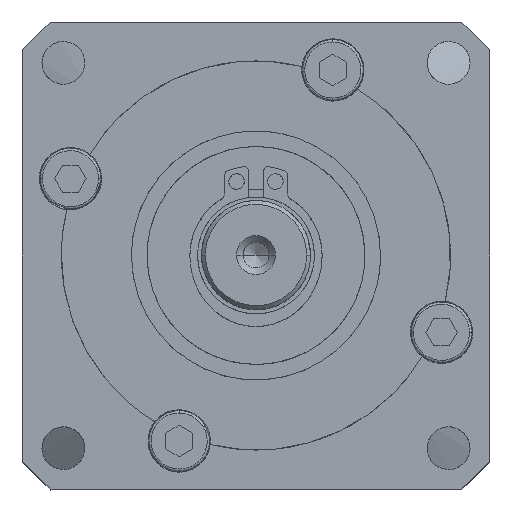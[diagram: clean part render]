
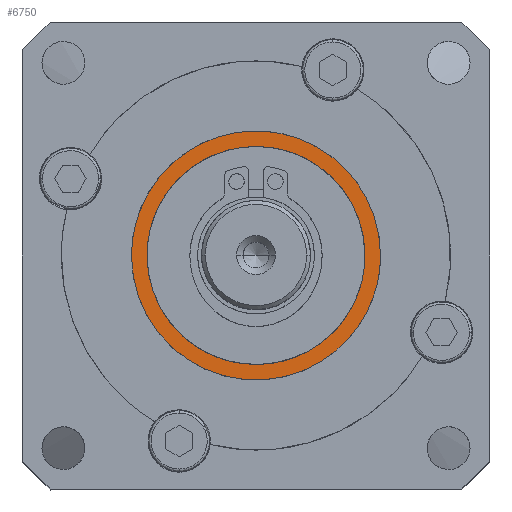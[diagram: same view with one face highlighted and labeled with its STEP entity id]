
A CAD part, top view. The second image highlights one B-rep face of the part: STEP entity #6750.
In plain terms, the highlighted free-form (B-spline) face has degree [1, 1] with [2, 2] control points.
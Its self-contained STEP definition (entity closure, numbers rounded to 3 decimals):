
#341 = CARTESIAN_POINT ( 'NONE',  ( 9.832, 12.796, 9.3 ) ) ;
#410 = CARTESIAN_POINT ( 'NONE',  ( -12.796, -9.832, 9.3 ) ) ;
#483 = CARTESIAN_POINT ( 'NONE',  ( 16., 0., 9.3 ) ) ;
#712 = CARTESIAN_POINT ( 'NONE',  ( -14., 0., 9.3 ) ) ;
#908 = CARTESIAN_POINT ( 'NONE',  ( -14., 0., 9.3 ) ) ;
#1517 = CARTESIAN_POINT ( 'NONE',  ( 15.584, 4.186, 9.3 ) ) ;
#1577 = CARTESIAN_POINT ( 'NONE',  ( -16., -2.096, 9.3 ) ) ;
#1589 = CARTESIAN_POINT ( 'NONE',  ( -15.584, 4.186, 9.3 ) ) ;
#1652 = CARTESIAN_POINT ( 'NONE',  ( 13.98, -8.059, 9.3 ) ) ;
#1878 = CARTESIAN_POINT ( 'NONE',  ( 0., 14., 9.3 ) ) ;
#1891 = CARTESIAN_POINT ( 'NONE',  ( -16.192, 16.192, 9.3 ) ) ;
#2143 = EDGE_CURVE ( 'NONE', #11291, #5604, #6369, .T. ) ;
#2410 = B_SPLINE_SURFACE_WITH_KNOTS ( 'NONE', 1, 1, ( 
 ( #12639, #1891 ),
 ( #6671, #11469 ) ),
 .UNSPECIFIED., .F., .F., .F.,
 ( 2, 2 ),
 ( 2, 2 ),
 ( 0., 1. ),
 ( 0., 1. ),
 .UNSPECIFIED. ) ;
#2450 = ORIENTED_EDGE ( 'NONE', *, *, #14894, .T. ) ;
#2712 = CARTESIAN_POINT ( 'NONE',  ( -14., -28., 9.3 ) ) ;
#2755 = CARTESIAN_POINT ( 'NONE',  ( -9.832, 12.796, 9.3 ) ) ;
#2824 = CARTESIAN_POINT ( 'NONE',  ( 8.059, -13.98, 9.3 ) ) ;
#2834 =( BOUNDED_CURVE ( )  B_SPLINE_CURVE ( 3, ( #13469, #2712, #7483, #12278 ),
 .UNSPECIFIED., .F., .F. ) 
 B_SPLINE_CURVE_WITH_KNOTS ( ( 4, 4 ),
 ( -3.142, 0. ),
 .UNSPECIFIED. ) 
 CURVE ( )  GEOMETRIC_REPRESENTATION_ITEM ( )  RATIONAL_B_SPLINE_CURVE ( ( 1., 0.333, 0.333, 1. ) ) 
 REPRESENTATION_ITEM ( '' )  );
#3048 = CARTESIAN_POINT ( 'NONE',  ( 14., 0., 9.3 ) ) ;
#3061 = FACE_OUTER_BOUND ( 'NONE', #14534, .T. ) ;
#3783 = EDGE_CURVE ( 'NONE', #10233, #6137, #4498, .T. ) ;
#3937 = CARTESIAN_POINT ( 'NONE',  ( -2.096, 16., 9.3 ) ) ;
#3998 = CARTESIAN_POINT ( 'NONE',  ( -2.096, -16., 9.3 ) ) ;
#4498 =( BOUNDED_CURVE ( )  B_SPLINE_CURVE ( 3, ( #3048, #7831, #12624, #1878, #6659, #11454, #712 ),
 .UNSPECIFIED., .F., .F. ) 
 B_SPLINE_CURVE_WITH_KNOTS ( ( 4, 3, 4 ),
 ( -3.142, -1.571, 0. ),
 .UNSPECIFIED. ) 
 CURVE ( )  GEOMETRIC_REPRESENTATION_ITEM ( )  RATIONAL_B_SPLINE_CURVE ( ( 1., 0.805, 0.805, 1., 0.805, 0.805, 1. ) ) 
 REPRESENTATION_ITEM ( '' )  );
#5103 = CARTESIAN_POINT ( 'NONE',  ( 8.059, 13.98, 9.3 ) ) ;
#5169 = CARTESIAN_POINT ( 'NONE',  ( -9.832, -12.796, 9.3 ) ) ;
#5478 = ORIENTED_EDGE ( 'NONE', *, *, #3783, .F. ) ;
#5604 = VERTEX_POINT ( 'NONE', #14050 ) ;
#6127 = B_SPLINE_CURVE_WITH_KNOTS ( 'NONE', 3,
 ( #7455, #12249, #1517, #6277, #11068, #341, #5103, #9893, #14699, #3937, #8714, #13513, #2755, #7530, #12325, #1589, #6354, #11148 ),
 .UNSPECIFIED., .F., .F.,
 ( 4, 2, 2, 2, 2, 2, 2, 2, 4 ),
 ( 0., 0.393, 0.785, 1.178, 1.571, 1.963, 2.356, 2.749, 3.142 ),
 .UNSPECIFIED. ) ;
#6137 = VERTEX_POINT ( 'NONE', #908 ) ;
#6277 = CARTESIAN_POINT ( 'NONE',  ( 13.98, 8.059, 9.3 ) ) ;
#6341 = CARTESIAN_POINT ( 'NONE',  ( -15.584, -4.186, 9.3 ) ) ;
#6354 = CARTESIAN_POINT ( 'NONE',  ( -16., 2.096, 9.3 ) ) ;
#6369 = B_SPLINE_CURVE_WITH_KNOTS ( 'NONE', 3,
 ( #12316, #1577, #6341, #11138, #410, #5169, #9963, #14777, #3998, #8778, #13584, #2824, #7595, #12387, #1652, #6424, #11219, #483 ),
 .UNSPECIFIED., .F., .F.,
 ( 4, 2, 2, 2, 2, 2, 2, 2, 4 ),
 ( 3.142, 3.534, 3.927, 4.32, 4.712, 5.105, 5.498, 5.89, 6.283 ),
 .UNSPECIFIED. ) ;
#6424 = CARTESIAN_POINT ( 'NONE',  ( 15.584, -4.186, 9.3 ) ) ;
#6659 = CARTESIAN_POINT ( 'NONE',  ( -8.201, 14., 9.3 ) ) ;
#6671 = CARTESIAN_POINT ( 'NONE',  ( 16.192, -16.192, 9.3 ) ) ;
#6702 = ORIENTED_EDGE ( 'NONE', *, *, #12064, .F. ) ;
#6750 = ADVANCED_FACE ( 'NONE', ( #13841, #3061 ), #2410, .T. ) ;
#6994 = CARTESIAN_POINT ( 'NONE',  ( 14., 0., 9.3 ) ) ;
#7455 = CARTESIAN_POINT ( 'NONE',  ( 16., 0., 9.3 ) ) ;
#7483 = CARTESIAN_POINT ( 'NONE',  ( 14., -28., 9.3 ) ) ;
#7530 = CARTESIAN_POINT ( 'NONE',  ( -12.796, 9.832, 9.3 ) ) ;
#7595 = CARTESIAN_POINT ( 'NONE',  ( 9.832, -12.796, 9.3 ) ) ;
#7831 = CARTESIAN_POINT ( 'NONE',  ( 14., 8.201, 9.3 ) ) ;
#8714 = CARTESIAN_POINT ( 'NONE',  ( -4.186, 15.584, 9.3 ) ) ;
#8778 = CARTESIAN_POINT ( 'NONE',  ( 2.096, -16., 9.3 ) ) ;
#9893 = CARTESIAN_POINT ( 'NONE',  ( 4.186, 15.584, 9.3 ) ) ;
#9963 = CARTESIAN_POINT ( 'NONE',  ( -8.059, -13.98, 9.3 ) ) ;
#10151 = ORIENTED_EDGE ( 'NONE', *, *, #2143, .T. ) ;
#10233 = VERTEX_POINT ( 'NONE', #6994 ) ;
#10824 = EDGE_LOOP ( 'NONE', ( #5478, #6702 ) ) ;
#11068 = CARTESIAN_POINT ( 'NONE',  ( 12.796, 9.832, 9.3 ) ) ;
#11138 = CARTESIAN_POINT ( 'NONE',  ( -13.98, -8.059, 9.3 ) ) ;
#11148 = CARTESIAN_POINT ( 'NONE',  ( -16., 0., 9.3 ) ) ;
#11219 = CARTESIAN_POINT ( 'NONE',  ( 16., -2.096, 9.3 ) ) ;
#11291 = VERTEX_POINT ( 'NONE', #12202 ) ;
#11454 = CARTESIAN_POINT ( 'NONE',  ( -14., 8.201, 9.3 ) ) ;
#11469 = CARTESIAN_POINT ( 'NONE',  ( 16.192, 16.192, 9.3 ) ) ;
#12064 = EDGE_CURVE ( 'NONE', #6137, #10233, #2834, .T. ) ;
#12202 = CARTESIAN_POINT ( 'NONE',  ( -16., 0., 9.3 ) ) ;
#12249 = CARTESIAN_POINT ( 'NONE',  ( 16., 2.096, 9.3 ) ) ;
#12278 = CARTESIAN_POINT ( 'NONE',  ( 14., 0., 9.3 ) ) ;
#12316 = CARTESIAN_POINT ( 'NONE',  ( -16., 0., 9.3 ) ) ;
#12325 = CARTESIAN_POINT ( 'NONE',  ( -13.98, 8.059, 9.3 ) ) ;
#12387 = CARTESIAN_POINT ( 'NONE',  ( 12.796, -9.832, 9.3 ) ) ;
#12624 = CARTESIAN_POINT ( 'NONE',  ( 8.201, 14., 9.3 ) ) ;
#12639 = CARTESIAN_POINT ( 'NONE',  ( -16.192, -16.192, 9.3 ) ) ;
#13469 = CARTESIAN_POINT ( 'NONE',  ( -14., 0., 9.3 ) ) ;
#13513 = CARTESIAN_POINT ( 'NONE',  ( -8.059, 13.98, 9.3 ) ) ;
#13584 = CARTESIAN_POINT ( 'NONE',  ( 4.186, -15.584, 9.3 ) ) ;
#13841 = FACE_BOUND ( 'NONE', #10824, .T. ) ;
#14050 = CARTESIAN_POINT ( 'NONE',  ( 16., 0., 9.3 ) ) ;
#14534 = EDGE_LOOP ( 'NONE', ( #2450, #10151 ) ) ;
#14699 = CARTESIAN_POINT ( 'NONE',  ( 2.096, 16., 9.3 ) ) ;
#14777 = CARTESIAN_POINT ( 'NONE',  ( -4.186, -15.584, 9.3 ) ) ;
#14894 = EDGE_CURVE ( 'NONE', #5604, #11291, #6127, .T. ) ;
